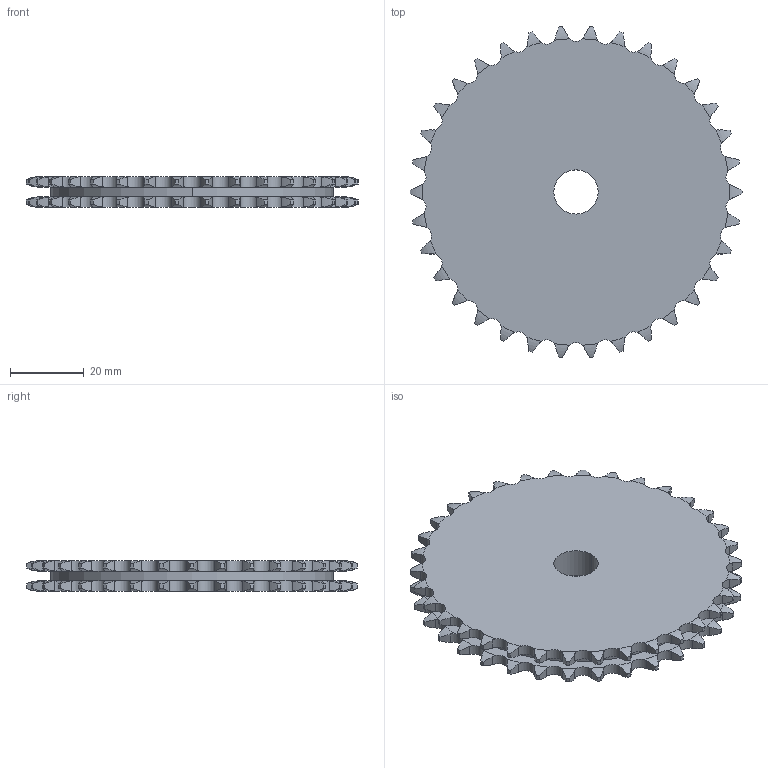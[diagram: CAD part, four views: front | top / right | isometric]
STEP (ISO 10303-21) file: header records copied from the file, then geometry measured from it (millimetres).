
FILE_DESCRIPTION((''),'2;1');
FILE_NAME('500-082-0034_PRT','2021-02-12T',('Brieden'),('Brieden'),'PRO/ENGINEER BY PARAMETRIC TECHNOLOGY CORPORATION, 2010160','PRO/ENGINEER BY PARAMETRIC TECHNOLOGY CORPORATION, 2010160','');
FILE_SCHEMA(('AUTOMOTIVE_DESIGN { 1 0 10303 214 1 1 1 1 }'));
Length unit declared in the file: millimetre
Products named in the file (1): 500-082-0034_PRT
Bounding box: 90 x 89.69 x 8.3 mm (x, y, z)
Volume: 43015.5 mm3; surface area: 16169.9 mm2
Topology: 1 solids, 1 shells, 416 faces, 1236 edges, 824 vertices
Faces by surface type: cylinder 276, torus 136, plane 4
Entity records: 19562 total; most frequent: CARTESIAN_POINT 5291, ORIENTED_EDGE 2472, DIRECTION 1940, PRESENTATION_STYLE_ASSIGNMENT 1237, STYLED_ITEM 1237, CURVE_STYLE 1236, EDGE_CURVE 1236, AXIS2_PLACEMENT_3D 832
